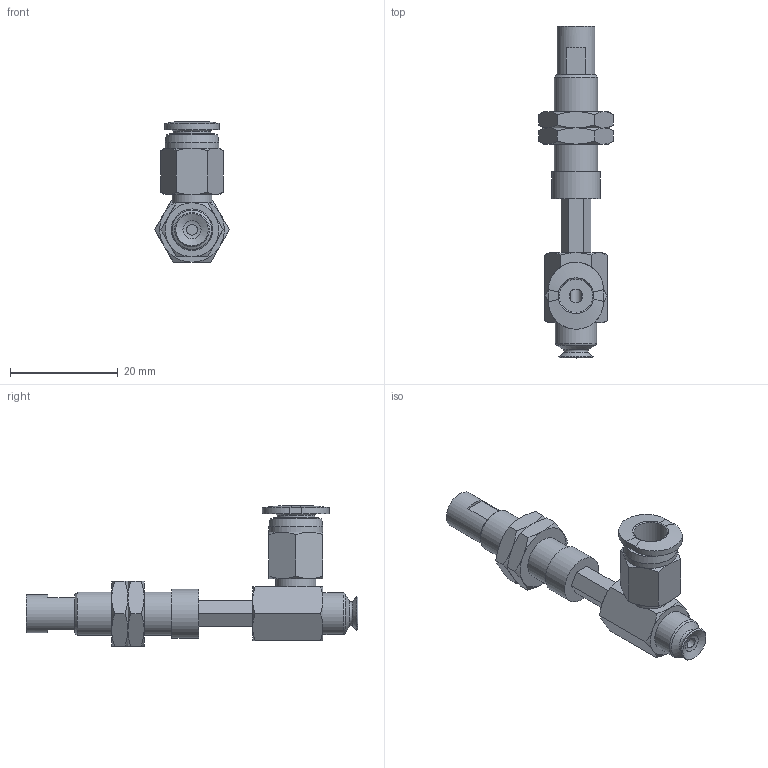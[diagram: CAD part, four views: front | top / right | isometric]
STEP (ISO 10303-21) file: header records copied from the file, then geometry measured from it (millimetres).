
FILE_DESCRIPTION(('STEP AP203'),'1');
FILE_NAME('-O.stp','2025-04-10T02:57:18',(' '),(' '),'Spatial InterOp 3D',' ',' ');
FILE_SCHEMA(('CONFIG_CONTROL_DESIGN'));
Length unit declared in the file: millimetre
Products named in the file (7): BNABPFYH-6A-10-※-O; CONNECTOR-H-6A-10; Nut-6A-10-h; NAPFTH-6A-10-FBODY; NAPFTH-6A-10-MBODY; BPFG-6A-※; PC-C_06-M5
Assembly tree (7 placements, depth 2):
  BNABPFYH-6A-10-※-O
    CONNECTOR-H-6A-10
    Nut-6A-10-h  x2
    NAPFTH-6A-10-FBODY
    NAPFTH-6A-10-MBODY
    BPFG-6A-※
    PC-C_06-M5
Bounding box: 13.86 x 61.5 x 25.98 mm (x, y, z)
Volume: 3365.7 mm3; surface area: 5192.2 mm2
Topology: 6 solids, 9 shells, 189 faces, 401 edges, 243 vertices
Faces by surface type: plane 79, cone 67, cylinder 24, torus 11, bspline 5, revolution 3
Full cylindrical faces by diameter (mm): 2 x2, 4 x4, 4.134 x2, 5 x2, 6 x2, 7 x2, 7.188 x2, 7.4 x1, 7.7 x1, 8 x1, 8.2 x1, 9 x1, 10 x1
Entity records: 4959 total; most frequent: CARTESIAN_POINT 1398, DIRECTION 659, ORIENTED_EDGE 584, EDGE_CURVE 294, AXIS2_PLACEMENT_3D 281, EDGE_LOOP 242, VERTEX_POINT 206, FACE_OUTER_BOUND 139
